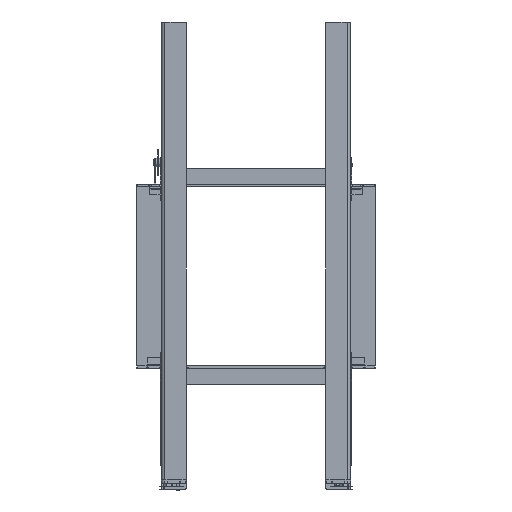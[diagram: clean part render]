
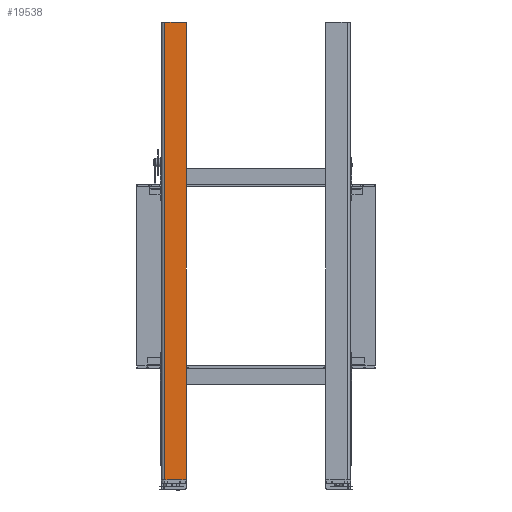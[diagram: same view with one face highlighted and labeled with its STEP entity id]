
A CAD part, front view. The second image highlights one B-rep face of the part: STEP entity #19538.
In plain terms, the highlighted planar face has unit normal (0, -1, 0).
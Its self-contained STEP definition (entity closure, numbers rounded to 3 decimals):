
#1675=LINE('',#28445,#3420);
#1784=LINE('',#28799,#3529);
#1799=LINE('',#28843,#3544);
#1801=LINE('',#28849,#3546);
#1802=LINE('',#28853,#3547);
#1803=LINE('',#28854,#3548);
#3420=VECTOR('',#22645,10.);
#3529=VECTOR('',#22974,10.);
#3544=VECTOR('',#23021,10.);
#3546=VECTOR('',#23031,10.);
#3547=VECTOR('',#23038,10.);
#3548=VECTOR('',#23039,10.);
#5266=FACE_OUTER_BOUND('',#6304,.T.);
#6304=EDGE_LOOP('',(#13504,#13505,#13506,#13507,#13508,#13509,#13510,#13511));
#7404=CIRCLE('',#20663,2.);
#7406=CIRCLE('',#20668,2.);
#8345=VERTEX_POINT('',#28431);
#8351=VERTEX_POINT('',#28443);
#8484=VERTEX_POINT('',#28792);
#8485=VERTEX_POINT('',#28794);
#8486=VERTEX_POINT('',#28798);
#8491=VERTEX_POINT('',#28812);
#8498=VERTEX_POINT('',#28840);
#8499=VERTEX_POINT('',#28842);
#10233=EDGE_CURVE('',#8351,#8345,#1675,.T.);
#10409=EDGE_CURVE('',#8485,#8484,#7404,.T.);
#10411=EDGE_CURVE('',#8486,#8485,#1784,.T.);
#10418=EDGE_CURVE('',#8491,#8486,#7406,.T.);
#10434=EDGE_CURVE('',#8499,#8498,#1799,.T.);
#10438=EDGE_CURVE('',#8484,#8499,#1801,.T.);
#10440=EDGE_CURVE('',#8345,#8498,#1802,.T.);
#10441=EDGE_CURVE('',#8491,#8351,#1803,.T.);
#13504=ORIENTED_EDGE('',*,*,#10409,.T.);
#13505=ORIENTED_EDGE('',*,*,#10438,.T.);
#13506=ORIENTED_EDGE('',*,*,#10434,.T.);
#13507=ORIENTED_EDGE('',*,*,#10440,.F.);
#13508=ORIENTED_EDGE('',*,*,#10233,.F.);
#13509=ORIENTED_EDGE('',*,*,#10441,.F.);
#13510=ORIENTED_EDGE('',*,*,#10418,.T.);
#13511=ORIENTED_EDGE('',*,*,#10411,.T.);
#18955=PLANE('',#20687);
#19538=ADVANCED_FACE('',(#5266),#18955,.T.);
#20663=AXIS2_PLACEMENT_3D('',#28795,#22969,#22970);
#20668=AXIS2_PLACEMENT_3D('',#28813,#22986,#22987);
#20687=AXIS2_PLACEMENT_3D('',#28852,#23036,#23037);
#22645=DIRECTION('',(-1.,0.,0.));
#22969=DIRECTION('center_axis',(0.,-1.,0.));
#22970=DIRECTION('ref_axis',(0.707,0.,0.707));
#22974=DIRECTION('',(0.,0.,1.));
#22986=DIRECTION('center_axis',(0.,-1.,0.));
#22987=DIRECTION('ref_axis',(0.707,0.,-0.707));
#23021=DIRECTION('',(0.,0.,-1.));
#23031=DIRECTION('',(-1.,0.,0.));
#23036=DIRECTION('center_axis',(0.,-1.,0.));
#23037=DIRECTION('ref_axis',(0.,0.,
-1.));
#23038=DIRECTION('',(-1.,0.,0.));
#23039=DIRECTION('',(-1.,0.,0.));
#28431=CARTESIAN_POINT('',(-274.5,-1065.5,-904.));
#28443=CARTESIAN_POINT('',(-232.5,-1065.5,-904.));
#28445=CARTESIAN_POINT('',(-215.5,-1065.5,-904.));
#28792=CARTESIAN_POINT('',(-217.5,-1065.5,508.5));
#28794=CARTESIAN_POINT('',(-215.5,-1065.5,506.5));
#28795=CARTESIAN_POINT('Origin',(-217.5,-1065.5,506.5));
#28798=CARTESIAN_POINT('',(-215.5,-1065.5,-902.));
#28799=CARTESIAN_POINT('',(-215.5,-1065.5,-904.));
#28812=CARTESIAN_POINT('',(-217.5,-1065.5,-904.));
#28813=CARTESIAN_POINT('Origin',(-217.5,-1065.5,-902.));
#28840=CARTESIAN_POINT('',(-281.25,-1065.5,-904.));
#28842=CARTESIAN_POINT('',(-281.25,-1065.5,508.5));
#28843=CARTESIAN_POINT('',(-281.25,-1065.5,-197.75));
#28849=CARTESIAN_POINT('',(-215.5,-1065.5,508.5));
#28852=CARTESIAN_POINT('Origin',(-286.591,-1065.5,-197.75));
#28853=CARTESIAN_POINT('',(-215.5,-1065.5,-904.));
#28854=CARTESIAN_POINT('',(-215.5,-1065.5,-904.));
